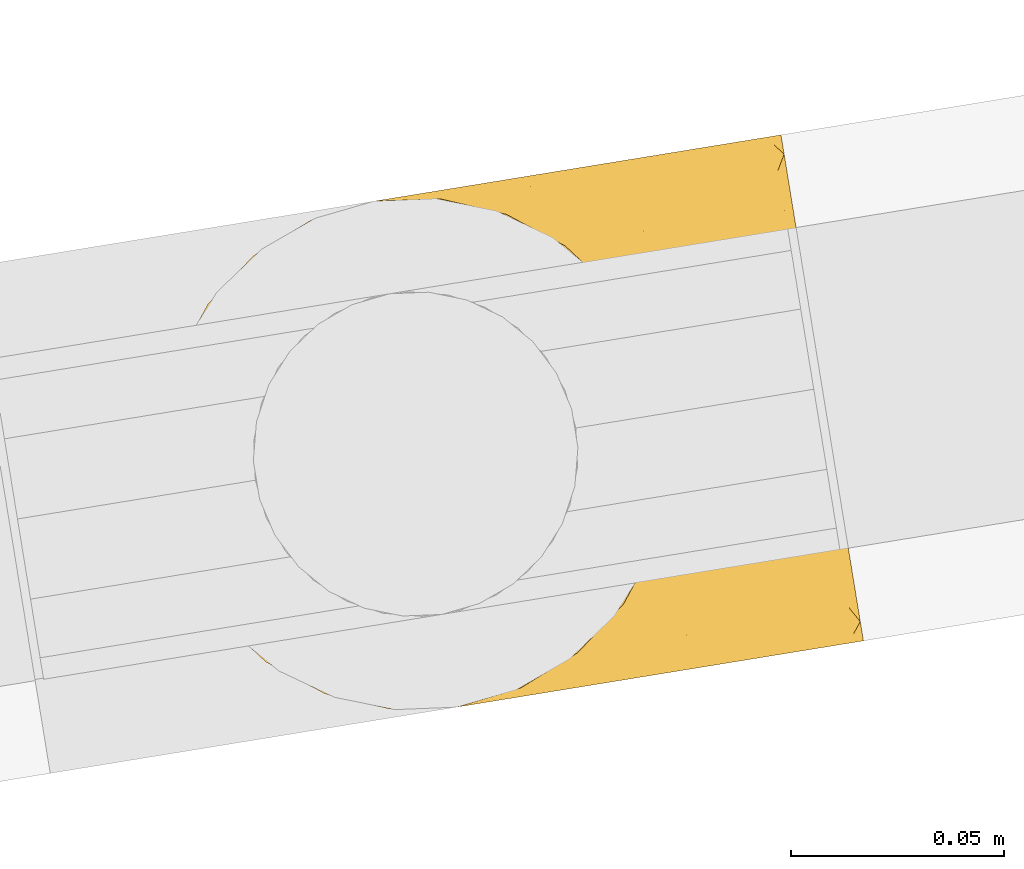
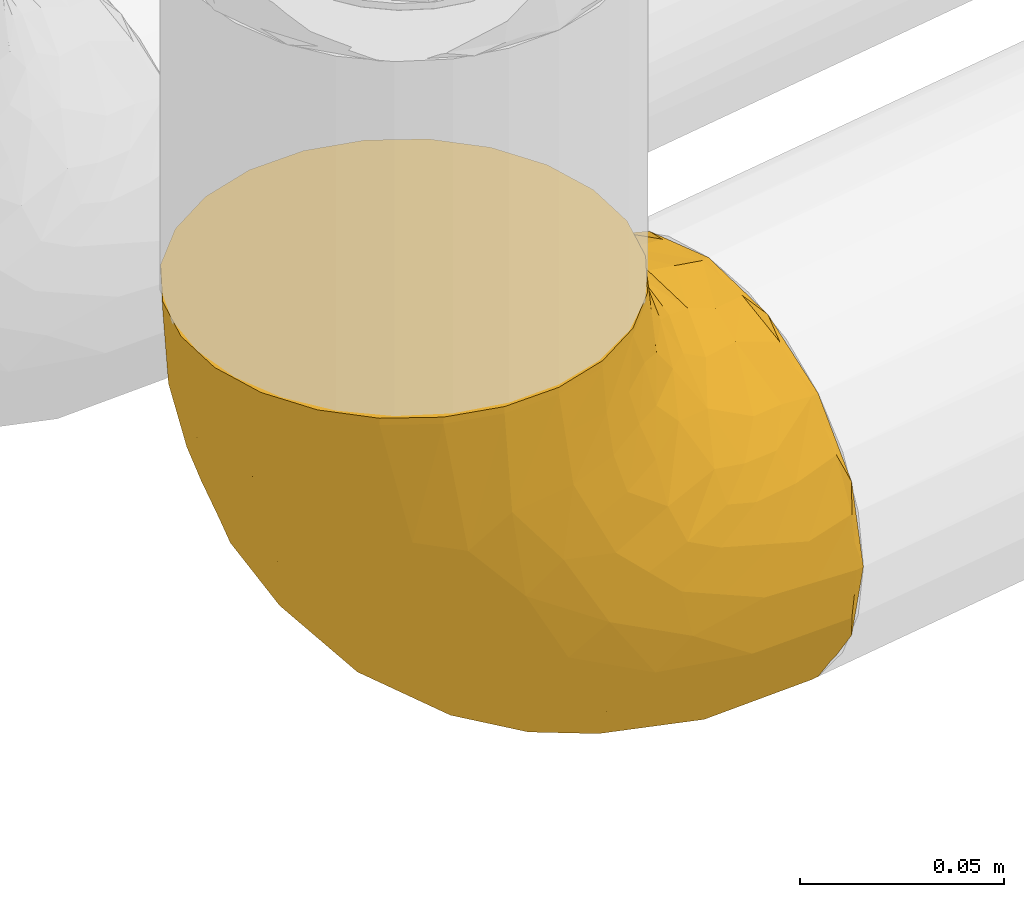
# One storey, part 14 of 56: 1 covering.
"""IFC2X3 building model written with IfcOpenShell, lengths in millimetres."""

from ifc_helpers import new_model, entity, si_unit, converted_unit, derived_unit, direction, frame, origin, origin_with_axes, place, context, subcontext, project, spatial, faceted_brep, material, type_object, element, save


model = new_model("IFC2X3")

# Units and contexts
model_context = context("Model", 3, precision=0.01, world=origin(), true_north=direction((6.12323399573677e-17, 1.0)))
plan_context = context("Plan", 3, precision=1e-05, world=origin_with_axes())
body_context = subcontext(model_context, "Body", "Model", "MODEL_VIEW")
ifc_project = project(units=[converted_unit("PLANEANGLEUNIT", "DEGREE", entity("IfcPositiveLengthMeasure", 0.0174532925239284), si_unit("PLANEANGLEUNIT", "RADIAN"), dimensions=[0, 0, 0, 0, 0, 0, 0]), si_unit("AREAUNIT", "SQUARE_METRE"), si_unit("LENGTHUNIT", "METRE", prefix="MILLI"), si_unit("MASSUNIT", "GRAM", prefix="KILO"), si_unit("POWERUNIT", "WATT"), si_unit("PRESSUREUNIT", "PASCAL", prefix="KILO"), si_unit("FORCEUNIT", "NEWTON", prefix="KILO"), si_unit("ELECTRICVOLTAGEUNIT", "VOLT"), si_unit("ELECTRICCURRENTUNIT", "AMPERE"), si_unit("THERMODYNAMICTEMPERATUREUNIT", "DEGREE_CELSIUS"), si_unit("TIMEUNIT", "SECOND"), si_unit("VOLUMEUNIT", "CUBIC_METRE"), derived_unit("LINEARVELOCITYUNIT", [(si_unit("LENGTHUNIT", "METRE"), 1), (si_unit("TIMEUNIT", "SECOND"), -1)]), derived_unit("VOLUMETRICFLOWRATEUNIT", [(si_unit("VOLUMEUNIT", "CUBIC_METRE"), 1), (si_unit("TIMEUNIT", "SECOND"), -1)]), derived_unit("THERMALTRANSMITTANCEUNIT", [(si_unit("POWERUNIT", "WATT"), 1), (si_unit("THERMODYNAMICTEMPERATUREUNIT", "KELVIN"), -1), (si_unit("AREAUNIT", "SQUARE_METRE"), -1)]), derived_unit("SOUNDPRESSUREUNIT", [(si_unit("PRESSUREUNIT", "PASCAL"), 1)])], contexts=[model_context, plan_context])

# Site, building, storey
site_placement = place(None, frame((-3.09682673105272e-06, 1.93776733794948e-05, 0.0), z_axis=(0.0, 0.0, 1.0), x_axis=(-0.160806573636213, 0.986985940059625, 0.0)))
site = spatial("IfcSite", under=ifc_project, at=site_placement, Name="Default", CompositionType="ELEMENT")
building_placement = place(site_placement, frame((0.0, 0.0, 0.0), z_axis=(0.0, 0.0, 1.0), x_axis=(1.0, -2.77555756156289e-17, 0.0)))
building = spatial("IfcBuilding", under=site, at=building_placement, Name="Bygning (endres i Project Information)", CompositionType="ELEMENT")
storey_placement = place(building_placement, frame((0.0, 0.0, 51360.0000000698), z_axis=(0.0, 0.0, 1.0), x_axis=(1.0, -2.77555756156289e-17, 0.0)))
storey = spatial("IfcBuildingStorey", under=building, at=storey_placement, Name="H01-Nivå D+0,36", CompositionType="ELEMENT", Elevation=51360.0000000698)

# Covering
ifc_material = material(Name="3700.001 Retur")
covering_type = type_object("IfcCoveringType", Name="Pipe Insulation:GLAVA avløpsisol. slange økende 19mm (15,5-25,0)", PredefinedType="INSULATION")
covering_placement = place(storey_placement, frame((1011626.7223707, -395767.315734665, 3238.35472776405), z_axis=(0.0, 0.0, 1.0), x_axis=(1.0, -2.77555756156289e-17, 0.0)))
element("IfcCovering", 1, at=covering_placement, inside=storey, type_object=covering_type, material=ifc_material, Name="Pipe Insulation:GLAVA avløpsisol. slange økende 19mm (15,5-25,0)", ObjectType="Pipe Insulation:GLAVA avløpsisol. slange økende 19mm (15,5-25,0)", PredefinedType="INSULATION", context=body_context, shape_type="Brep", body=[
    faceted_brep([(12.6749081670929, 0.0, 28.9243210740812), (19.1835100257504, 0.0, 19.1835100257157), (28.9243210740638, 0.0, 12.6749081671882), (38.6651321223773, 0.0, 6.16630630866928), (50.1552021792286, 0.0, 3.88078927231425), (61.6452722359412, 0.0, 1.59527223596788), (73.1353422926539, 0.0, 3.88078927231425), (84.6254123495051, 0.0, 6.16630630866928), (94.3662233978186, 0.0, 12.6749081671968), (104.107034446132, 0.0, 19.1835100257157), (110.61563630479, 0.0, 28.9243210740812), (117.124238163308, 0.0, 38.6651321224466), (119.409755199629, 0.0, 50.1552021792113), (121.695272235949, 0.0, 61.6452722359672), (119.409755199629, 0.0, 73.1353422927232), (117.124238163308, 0.0, 84.6254123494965), (110.61563630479, 0.0, 94.3662233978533), (104.107034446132, 0.0, 104.107034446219), (94.3662233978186, 0.0, 110.615636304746), (84.6254123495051, 0.0, 117.124238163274), (73.1353422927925, 0.0, 119.40975519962), (61.6452722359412, 0.0, 121.695272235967), (50.1552021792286, 0.0, 119.40975519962), (38.6651321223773, 0.0, 117.124238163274), (28.9243210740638, 0.0, 110.615636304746), (19.1835100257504, 0.0, 104.107034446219), (12.6749081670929, 0.0, 94.3662233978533), (6.16630630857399, 0.0, 84.6254123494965), (3.88078927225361, 0.0, 73.1353422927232), (1.59527223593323, 0.0, 61.6452722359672), (3.88078927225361, 0.0, 50.1552021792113), (6.16630630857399, 0.0, 38.6651321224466), (84.4288140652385, 151.504335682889, 158.145272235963), (77.1873558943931, 154.503845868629, 158.145272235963), (70.0046048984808, 155.449472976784, 158.145272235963), (61.6452722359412, 156.549999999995, 158.145272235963), (53.8742304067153, 155.526922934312, 158.145272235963), (46.1031885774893, 154.503845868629, 158.145272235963), (38.861730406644, 151.504335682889, 158.145272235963), (31.6202722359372, 148.504825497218, 158.145272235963), (25.4018911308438, 143.733293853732, 158.145272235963), (19.1835100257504, 138.961762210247, 158.145272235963), (14.4119783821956, 132.743381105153, 158.145272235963), (9.64044673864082, 126.524999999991, 158.145272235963), (6.64093655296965, 119.283541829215, 158.145272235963), (3.64142636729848, 112.042083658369, 158.145272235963), (2.69579925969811, 104.859332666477, 158.145272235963), (1.59527223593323, 96.4999999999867, 158.145272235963), (2.61834930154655, 88.7289581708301, 158.145272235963), (3.64142636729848, 80.9579163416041, 158.145272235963), (6.64093655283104, 73.7164581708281, 158.145272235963), (9.64044673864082, 66.4749999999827, 158.145272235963), (14.4119783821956, 60.25661889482, 158.145272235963), (19.1835100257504, 54.0382377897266, 158.145272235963), (25.4018911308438, 49.2667061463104, 158.145272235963), (31.6202722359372, 44.4951745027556, 158.145272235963), (38.861730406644, 41.4956643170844, 158.145272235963), (46.1031885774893, 38.496154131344, 158.145272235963), (53.2859395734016, 37.5505270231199, 158.145272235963), (61.6452722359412, 36.4499999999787, 158.145272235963), (69.4163140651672, 37.4730770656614, 158.145272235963), (77.1873558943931, 38.496154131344, 158.145272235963), (84.4288140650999, 41.4956643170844, 158.145272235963), (91.6702722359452, 44.4951745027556, 158.145272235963), (97.8886533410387, 49.2667061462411, 158.145272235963), (104.107034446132, 54.0382377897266, 158.145272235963), (108.878566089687, 60.2566188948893, 158.145272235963), (113.650097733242, 66.4749999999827, 158.145272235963), (116.649607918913, 73.7164581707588, 158.145272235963), (119.649118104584, 80.9579163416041, 158.145272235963), (120.594745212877, 88.1406673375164, 158.145272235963), (121.695272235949, 96.4999999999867, 158.145272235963), (120.672195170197, 104.271041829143, 158.145272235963), (119.649118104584, 112.042083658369, 158.145272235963), (116.649607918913, 119.283541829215, 158.145272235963), (113.650097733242, 126.524999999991, 158.145272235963), (108.878566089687, 132.743381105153, 158.145272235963), (104.107034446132, 138.961762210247, 158.145272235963), (97.8886533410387, 143.733293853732, 158.145272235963), (91.6702722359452, 148.504825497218, 158.145272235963), (46.1031885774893, 154.503845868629, 156.145272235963), (61.6452722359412, 156.549999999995, 156.145272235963), (53.2859395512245, 155.449472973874, 156.145272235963), (31.6202722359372, 148.504825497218, 156.145272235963), (38.861730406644, 151.504335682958, 156.145272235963), (25.4018911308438, 143.733293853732, 156.145272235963), (19.1835100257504, 138.961762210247, 156.145272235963), (9.64044673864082, 126.524999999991, 156.145272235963), (14.4119783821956, 132.743381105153, 156.145272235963), (3.64142636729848, 112.042083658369, 156.145272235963), (6.64093655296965, 119.283541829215, 156.145272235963), (2.61834930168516, 104.271041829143, 156.145272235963), (1.59527223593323, 96.4999999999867, 156.145272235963), (2.69579925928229, 88.1406673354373, 156.145272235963), (2.99407838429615, 85.8750124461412, 156.145272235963), (3.64142636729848, 80.9579163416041, 156.145272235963), (9.64044673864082, 66.4749999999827, 156.145272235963), (6.64093655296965, 73.7164581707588, 156.145272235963), (14.4119783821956, 60.25661889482, 156.145272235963), (19.1835100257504, 54.0382377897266, 156.145272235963), (31.6202722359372, 44.4951745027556, 156.145272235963), (25.4018911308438, 49.2667061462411, 156.145272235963), (46.1031885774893, 38.496154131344, 156.145272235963), (38.861730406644, 41.4956643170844, 156.145272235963), (53.8742304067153, 37.4730770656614, 156.145272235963), (61.6452722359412, 36.4499999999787, 156.145272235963), (77.1873558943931, 38.496154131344, 156.145272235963), (70.0046048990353, 37.5505270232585, 156.145272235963), (91.6702722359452, 44.4951745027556, 156.145272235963), (84.4288140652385, 41.4956643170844, 156.145272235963), (97.8886533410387, 49.2667061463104, 156.145272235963), (104.107034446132, 54.0382377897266, 156.145272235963), (113.650097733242, 66.4749999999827, 156.145272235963), (108.878566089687, 60.25661889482, 156.145272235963), (119.649118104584, 80.9579163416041, 156.145272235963), (116.649607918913, 73.7164581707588, 156.145272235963), (120.296466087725, 85.8750124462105, 156.145272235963), (120.672195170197, 88.7289581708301, 156.145272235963), (121.695272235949, 96.4999999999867, 156.145272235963), (119.649118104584, 112.042083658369, 156.145272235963), (120.594745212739, 104.859332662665, 156.145272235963), (113.650097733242, 126.524999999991, 156.145272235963), (116.649607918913, 119.283541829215, 156.145272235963), (108.878566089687, 132.743381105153, 156.145272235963), (104.107034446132, 138.961762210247, 156.145272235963), (91.6702722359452, 148.504825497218, 156.145272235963), (97.8886533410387, 143.733293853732, 156.145272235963), (77.1873558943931, 154.503845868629, 156.145272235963), (84.4288140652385, 151.504335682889, 156.145272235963), (69.4163140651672, 155.526922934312, 156.145272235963), (61.6452722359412, 42.0004834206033, 6.86143578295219), (50.874360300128, 28.4061816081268, 4.85633208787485), (48.3123405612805, 66.8176923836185, 17.4970961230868), (61.6452722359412, 151.283836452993, 116.144788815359), (50.8743603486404, 153.28894006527, 129.7390901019), (40.1140278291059, 138.43438143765, 92.4811097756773), (29.0681267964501, 134.144438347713, 96.5885905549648), (40.5629880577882, 148.119588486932, 119.160590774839), (26.8652987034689, 142.732214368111, 128.340793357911), (6.2538791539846, 103.184564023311, 96.03935353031), (9.32891480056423, 118.904536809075, 114.864782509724), (15.7793795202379, 116.677739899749, 88.2689784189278), (30.9943885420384, 100.860670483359, 48.5209071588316), (43.033171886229, 122.592591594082, 64.2876891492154), (46.1252897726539, 94.5183470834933, 34.9034338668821), (2.60271791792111, 94.1873799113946, 104.940499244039), (3.35496170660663, 79.0255659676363, 79.1197072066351), (1.59527223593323, 78.4521059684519, 100.599565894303), (16.4717971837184, 130.738697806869, 118.733085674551), (25.2721583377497, 116.858258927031, 72.172721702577), (61.6452722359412, 111.283353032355, 46.8619192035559), (61.6452722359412, 79.2749999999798, 22.301046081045), (61.6452722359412, 135.844226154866, 78.8702722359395), (4.10209138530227, 109.248734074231, 125.036729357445), (6.25387908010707, 62.1059203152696, 54.9607093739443), (8.17011244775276, 88.1401035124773, 70.0051707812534), (1.59527223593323, 85.1634733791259, 113.771366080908), (1.59527223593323, 91.8748407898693, 126.943166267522), (51.0085878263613, 145.293239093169, 100.826681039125), (16.4717967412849, 39.4121875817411, 27.4065752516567), (15.7793792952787, 69.8762968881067, 41.4675344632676), (29.0681253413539, 61.5566846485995, 24.0008362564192), (40.5629880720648, 38.9846813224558, 10.02568370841), (46.1031885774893, 2.0, 3.64142636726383), (38.861730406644, 2.0, 6.6409365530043), (31.6202722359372, 2.0, 9.64044673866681), (26.8652981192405, 29.8044794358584, 15.4130584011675), (25.4018911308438, 2.0, 14.4119783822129), (19.1835100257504, 2.0, 19.1835100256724), (61.6452722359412, 2.0, 1.59527223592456), (53.8742304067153, 2.0, 2.61834930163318), (9.32891462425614, 43.2804911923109, 39.2407362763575), (9.64044673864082, 2.0, 31.6202722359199), (6.64093655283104, 2.0, 38.8617304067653), (3.64142636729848, 2.0, 46.1031885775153), (14.4119783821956, 2.0, 25.4018911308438), (1.59527223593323, 57.5457063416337, 79.6931662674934), (1.59527223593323, 67.9989061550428, 90.1463660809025), (2.6027179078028, 53.2047737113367, 63.9578927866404), (4.1020913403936, 33.1085435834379, 48.8965385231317), (1.59527223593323, 31.202105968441, 66.2704314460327), (1.59527223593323, 2.0, 61.6452722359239), (1.59527223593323, 14.7966155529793, 63.6720570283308), (1.59527223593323, 44.3739061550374, 72.9817988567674), (38.4156117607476, 76.0964222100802, 25.8677928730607), (2.61834930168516, 2.0, 53.8742304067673), (17.5329938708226, 97.6322626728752, 60.51301351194), (1.59527223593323, 94.4732153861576, 143.348657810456), (30.453594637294, 26.3881555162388, 120.504197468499), (45.3850170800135, 19.8213005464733, 124.070288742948), (39.6602346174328, 30.495068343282, 130.078513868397), (3.64833911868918, 79.6755573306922, 142.117064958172), (3.2176443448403, 77.7956794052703, 128.628832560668), (35.7453885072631, 41.3921957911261, 147.533586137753), (19.0905134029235, 51.2599985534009, 139.082463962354), (32.0600621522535, 39.3569033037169, 136.422330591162), (7.1678522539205, 66.4255659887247, 130.785364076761), (6.53844542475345, 61.7611370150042, 118.478414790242), (11.6121890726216, 57.397905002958, 129.916934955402), (2.87864533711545, 73.6921423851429, 116.031663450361), (4.10903521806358, 59.8559552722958, 104.87023375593), (19.6892528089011, 11.105458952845, 105.417545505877), (18.442420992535, 21.0489355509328, 106.909255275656), (12.6384382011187, 18.495195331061, 98.6689268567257), (2.61834930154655, 2.0, 69.4163140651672), (2.99407837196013, 2.0, 72.2702596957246), (3.64142636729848, 2.0, 77.1873558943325), (7.16352338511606, 69.7763679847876, 141.95247640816), (12.7756283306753, 60.2362581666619, 143.451789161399), (46.8445885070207, 35.2954551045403, 141.678469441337), (28.5046498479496, 35.1684660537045, 126.594306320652), (18.6122281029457, 35.474407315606, 115.54914553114), (34.8214494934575, 13.4287309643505, 117.00575641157), (31.6202722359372, 2.0, 113.650097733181), (38.861730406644, 2.0, 116.64960791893), (46.1031885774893, 2.0, 119.649118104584), (2.81174882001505, 54.7534216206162, 92.7490897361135), (6.64320962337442, 29.8078963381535, 91.4693001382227), (2.9890941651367, 44.0771599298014, 86.187271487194), (3.24649436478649, 27.0781928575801, 79.6356612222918), (11.1155242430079, 29.7714545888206, 100.652594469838), (2.96958213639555, 16.2064688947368, 75.6631370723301), (9.64044673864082, 2.0, 91.6702722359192), (8.05093078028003, 16.1340663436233, 90.2295581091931), (19.1835100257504, 2.0, 104.107034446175), (13.3023469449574, 48.9737177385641, 120.648409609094), (21.705384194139, 43.9447950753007, 129.564302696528), (61.6452722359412, 10.6124999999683, 124.002984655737), (44.9928957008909, 11.3511933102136, 120.547927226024), (9.64933126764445, 40.6154890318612, 104.532423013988), (6.18578600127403, 39.3574666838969, 95.2125765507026), (61.6452722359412, 2.0, 121.695272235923), (61.6452722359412, 25.5297875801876, 132.61548465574), (61.6452722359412, 19.2249999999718, 126.310697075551), (50.8046760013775, 29.8232292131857, 134.199400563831), (61.6452722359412, 31.8345751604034, 138.920272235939), (14.4119783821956, 2.0, 97.8886533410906), (25.4018911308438, 2.0, 108.878566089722), (6.64093655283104, 2.0, 84.4288140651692), (53.8742304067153, 2.0, 120.672195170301), (104.200031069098, 51.2599985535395, 139.082463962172), (87.5451559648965, 41.3921957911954, 147.533586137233), (76.4459559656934, 35.2954551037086, 141.678469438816), (119.642205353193, 79.6755573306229, 142.117064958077), (121.695272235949, 94.4732153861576, 143.348657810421), (121.695272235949, 57.5457063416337, 79.693166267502), (120.478798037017, 54.7534299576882, 92.7490814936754), (120.301449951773, 44.077157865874, 86.187272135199), (77.9055273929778, 19.8213005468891, 124.070288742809), (92.8369498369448, 26.3881555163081, 120.50419746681), (83.6303098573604, 30.495068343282, 130.078513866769), (110.773465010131, 60.6680970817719, 143.724416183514), (116.468392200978, 70.3948101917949, 141.257647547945), (116.122692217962, 66.4255659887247, 130.785364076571), (120.411899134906, 73.6921423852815, 116.031663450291), (120.252303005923, 78.4327232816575, 128.101851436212), (121.695272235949, 91.8748407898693, 126.943166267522), (101.585160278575, 43.9447950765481, 129.564302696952), (104.678309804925, 35.4744037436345, 115.549151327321), (109.988197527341, 48.9737177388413, 120.648409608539), (94.7858946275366, 35.1684660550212, 126.594306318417), (91.230482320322, 39.3569033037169, 136.422330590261), (73.0698771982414, 26.1401484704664, 130.052599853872), (121.695272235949, 67.9989061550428, 90.1463660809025), (119.181510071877, 59.8559490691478, 104.870222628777), (78.2976487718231, 11.3511933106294, 120.547927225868), (121.695272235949, 14.7966155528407, 63.6720570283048), (119.649118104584, 2.0, 77.1873558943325), (120.2964661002, 2.0, 72.2702596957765), (120.672195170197, 2.0, 69.4163140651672), (121.695272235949, 2.0, 61.6452722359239), (113.641203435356, 40.6154761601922, 104.532434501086), (110.65210593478, 18.4951987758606, 98.6689283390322), (104.107034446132, 2.0, 104.107034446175), (115.239608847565, 16.134063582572, 90.2295673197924), (108.878566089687, 2.0, 97.8886533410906), (113.650097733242, 2.0, 91.6702722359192), (120.044048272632, 27.0781868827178, 79.6356673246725), (116.647331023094, 29.8078959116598, 91.4693094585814), (104.848120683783, 21.04892582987, 106.909254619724), (112.175015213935, 29.7714523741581, 100.652602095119), (116.752097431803, 61.76113027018, 118.478411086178), (121.695272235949, 31.202105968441, 66.2704314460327), (120.320962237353, 16.206468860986, 75.6631375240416), (121.695272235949, 44.3739061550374, 72.9817988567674), (103.601296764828, 11.1054582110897, 105.417540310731), (88.4690949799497, 13.428730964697, 117.005756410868), (77.1873558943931, 2.0, 119.649118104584), (84.4288140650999, 2.0, 116.649607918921), (91.6702722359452, 2.0, 113.650097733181), (111.678355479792, 57.3979048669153, 129.916934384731), (121.695272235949, 78.4521059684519, 100.599565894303), (69.4163140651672, 2.0, 120.672195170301), (117.104756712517, 39.3574747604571, 95.2125864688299), (116.649607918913, 2.0, 84.4288140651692), (97.8886533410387, 2.0, 108.878566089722), (121.695272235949, 85.1634733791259, 113.771366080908), (120.687826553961, 94.1873799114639, 104.940499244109), (94.2224191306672, 61.5566846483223, 24.0008362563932), (98.0183867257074, 85.9725557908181, 41.2870177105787), (107.511165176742, 69.8762968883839, 41.4675344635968), (82.7275563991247, 38.9846813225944, 10.0256837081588), (91.6702722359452, 2.0, 9.64044673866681), (84.4288140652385, 2.0, 6.6409365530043), (77.1873558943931, 2.0, 3.64142636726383), (92.2961553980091, 109.624370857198, 57.2846075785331), (80.2573722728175, 93.8575895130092, 35.5526854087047), (77.1652542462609, 123.241842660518, 63.6269305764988), (120.68782656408, 53.2047737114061, 63.9578927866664), (119.935582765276, 79.0255659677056, 79.1197072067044), (119.18845308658, 109.248734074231, 125.036729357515), (72.4161841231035, 153.28894006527, 129.739090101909), (82.7275564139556, 148.119588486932, 119.160590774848), (96.4252457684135, 142.732214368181, 128.340793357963), (106.818747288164, 130.738697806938, 118.733085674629), (94.2224176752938, 134.144438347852, 96.5885905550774), (74.9782050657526, 140.648176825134, 91.3275819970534), (113.961629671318, 118.904536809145, 114.864782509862), (107.511164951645, 116.677739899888, 88.2689784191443), (113.650097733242, 2.0, 31.6202722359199), (106.818747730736, 39.4121875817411, 27.4065752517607), (113.961629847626, 43.2804911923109, 39.2407362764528), (119.188453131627, 33.1085435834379, 48.896538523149), (117.036665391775, 62.1059203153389, 54.9607093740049), (120.672195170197, 2.0, 53.8742304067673), (119.649118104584, 2.0, 46.1031885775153), (117.036665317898, 103.18456402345, 96.0393535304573), (115.12043202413, 88.1401035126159, 70.0051707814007), (72.4161841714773, 28.406181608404, 4.85633208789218), (104.107034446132, 2.0, 19.1835100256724), (96.425246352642, 29.8044794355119, 15.4130584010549), (72.2819553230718, 57.318589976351, 12.8520324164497), (97.8886533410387, 2.0, 14.4119783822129), (108.878566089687, 2.0, 25.4018911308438), (83.1765175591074, 65.6641633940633, 19.7108916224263), (84.8749309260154, 132.277483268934, 82.0488553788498), (105.757550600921, 97.6322626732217, 60.5130135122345), (116.649607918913, 2.0, 38.8617304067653), (69.4163140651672, 2.0, 2.61834930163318)], [[[0, 1, 2, 3, 4, 5, 6, 7, 8, 9, 10, 11, 12, 13, 14, 15, 16, 17, 18, 19, 20, 21, 22, 23, 24, 25, 26, 27, 28, 29, 30, 31]], [[32, 33, 34, 35, 36, 37, 38, 39, 40, 41, 42, 43, 44, 45, 46, 47, 48, 49, 50, 51, 52, 53, 54, 55, 56, 57, 58, 59, 60, 61, 62, 63, 64, 65, 66, 67, 68, 69, 70, 71, 72, 73, 74, 75, 76, 77, 78, 79]], [[80, 37, 36, 35, 81, 82]], [[83, 39, 38, 37, 80, 84]], [[40, 39, 83, 85, 86, 41]], [[87, 43, 42, 41, 86, 88]], [[89, 45, 44, 43, 87, 90]], [[46, 45, 89, 91, 92, 47]], [[49, 48, 47, 92, 93, 94, 95]], [[96, 51, 50, 49, 95, 97]], [[52, 51, 96, 98, 99, 53]], [[100, 55, 54, 53, 99, 101]], [[102, 57, 56, 55, 100, 103]], [[58, 57, 102, 104, 105, 59]], [[106, 61, 60, 59, 105, 107]], [[108, 63, 62, 61, 106, 109]], [[64, 63, 108, 110, 111, 65]], [[112, 67, 66, 65, 111, 113]], [[114, 69, 68, 67, 112, 115]], [[70, 69, 114, 116, 117, 118, 71]], [[119, 73, 72, 71, 118, 120]], [[121, 75, 74, 73, 119, 122]], [[76, 75, 121, 123, 124, 77]], [[125, 79, 78, 77, 124, 126]], [[127, 33, 32, 79, 125, 128]], [[34, 33, 127, 129, 81, 35]], [[130, 131, 132]], [[81, 133, 134]], [[135, 136, 137]], [[137, 136, 138]], [[137, 83, 84, 80]], [[139, 140, 141]], [[142, 143, 144]], [[145, 146, 147]], [[148, 86, 138]], [[138, 86, 85, 83]], [[143, 142, 149]], [[150, 151, 144]], [[143, 152, 150]], [[153, 92, 91, 89]], [[154, 146, 155]], [[87, 148, 140]], [[145, 147, 156, 157]], [[80, 134, 137]], [[158, 135, 137]], [[155, 146, 139]], [[148, 87, 88, 86]], [[159, 160, 161]], [[162, 163, 164, 165]], [[166, 165, 167, 168]], [[166, 162, 165]], [[131, 169, 170, 163]], [[159, 171, 160]], [[171, 172, 173, 174]], [[153, 139, 145]], [[159, 168, 175, 172]], [[144, 143, 150]], [[146, 176, 177, 147]], [[178, 179, 180]], [[179, 181, 182, 180]], [[178, 180, 183, 176]], [[178, 146, 154]], [[136, 149, 141]], [[131, 163, 162]], [[166, 159, 161]], [[184, 144, 132]], [[153, 140, 139]], [[179, 171, 174]], [[132, 144, 151]], [[134, 158, 137]], [[161, 160, 142]], [[146, 178, 176]], [[179, 178, 154]], [[179, 154, 171]], [[179, 174, 185, 181]], [[154, 155, 160]], [[172, 171, 159]], [[154, 160, 171]], [[160, 186, 142]], [[153, 157, 187, 92]], [[146, 145, 139]], [[153, 145, 157]], [[140, 89, 90, 87]], [[140, 153, 89]], [[141, 140, 148]], [[136, 141, 148]], [[141, 186, 155]], [[142, 144, 184]], [[186, 141, 149]], [[137, 138, 83]], [[148, 138, 136]], [[159, 166, 168]], [[162, 166, 161]], [[141, 155, 139]], [[160, 155, 186]], [[130, 132, 151]], [[184, 162, 161]], [[162, 184, 132]], [[142, 184, 161]], [[134, 80, 82, 81]], [[158, 134, 133]], [[133, 152, 158]], [[143, 158, 152]], [[158, 143, 135]], [[143, 136, 135]], [[132, 131, 162]], [[169, 131, 130]], [[143, 149, 136]], [[186, 149, 142]], [[188, 189, 190]], [[187, 157, 191]], [[157, 156, 192]], [[95, 187, 191]], [[193, 194, 195]], [[196, 197, 198]], [[199, 200, 197]], [[201, 202, 203]], [[182, 181, 204, 205, 206]], [[207, 208, 96]], [[209, 105, 104, 102]], [[188, 190, 210]], [[188, 210, 211]], [[187, 95, 94, 93, 92]], [[193, 102, 103, 100]], [[212, 213, 214, 215]], [[200, 177, 216]], [[202, 201, 212]], [[217, 218, 219]], [[183, 219, 218]], [[217, 203, 220]], [[221, 222, 223]], [[191, 96, 97, 95]], [[195, 210, 190]], [[224, 201, 203]], [[225, 211, 226]], [[227, 189, 228]], [[202, 188, 211]], [[195, 190, 209]], [[221, 182, 206]], [[223, 203, 217]], [[189, 188, 212]], [[200, 229, 225]], [[194, 100, 101, 99]], [[216, 218, 230]], [[208, 99, 98, 96]], [[199, 197, 196]], [[200, 147, 177]], [[228, 231, 227]], [[202, 212, 188]], [[228, 212, 215]], [[232, 189, 233]], [[209, 234, 235]], [[234, 209, 190]], [[105, 209, 235]], [[193, 209, 102]], [[232, 234, 189]], [[226, 210, 195]], [[211, 225, 229]], [[211, 210, 226]], [[211, 229, 220]], [[195, 194, 226]], [[198, 226, 194]], [[218, 216, 176]], [[216, 177, 176]], [[229, 200, 216]], [[180, 219, 183]], [[217, 220, 230]], [[218, 176, 183]], [[221, 219, 180]], [[223, 217, 219]], [[221, 223, 219]], [[223, 222, 236, 224]], [[224, 203, 223]], [[220, 203, 202]], [[211, 220, 202]], [[217, 230, 218]], [[220, 229, 230]], [[216, 230, 229]], [[201, 224, 237, 213]], [[212, 201, 213]], [[182, 221, 180]], [[221, 206, 238, 222]], [[189, 227, 233]], [[199, 196, 192]], [[191, 192, 207]], [[200, 199, 147]], [[147, 199, 156]], [[196, 207, 192]], [[200, 225, 197]], [[225, 226, 198]], [[157, 192, 191]], [[156, 199, 192]], [[207, 196, 208]], [[191, 207, 96]], [[198, 208, 196]], [[194, 99, 208]], [[225, 198, 197]], [[208, 198, 194]], [[194, 193, 100]], [[209, 193, 195]], [[189, 234, 190]], [[235, 234, 232]], [[228, 215, 239, 231]], [[189, 212, 228]], [[240, 111, 110, 108]], [[241, 108, 109, 106]], [[105, 235, 242]], [[243, 244, 114]], [[245, 246, 247]], [[248, 249, 250]], [[248, 233, 227]], [[251, 252, 112]], [[116, 114, 244, 118, 117]], [[253, 254, 255]], [[244, 243, 256]], [[253, 252, 251]], [[257, 258, 259]], [[243, 114, 115, 112]], [[258, 260, 249]], [[261, 250, 260]], [[262, 242, 235]], [[246, 263, 264]], [[231, 265, 227]], [[240, 108, 241]], [[266, 267, 268, 269, 270]], [[264, 259, 271]], [[272, 273, 274]], [[260, 257, 261]], [[274, 273, 275, 276]], [[277, 247, 278]], [[279, 280, 258]], [[254, 281, 264]], [[266, 282, 283]], [[283, 282, 277]], [[282, 284, 277]], [[272, 285, 273]], [[286, 279, 249]], [[286, 287, 288, 289]], [[259, 281, 290]], [[272, 280, 279]], [[263, 246, 245]], [[264, 291, 254]], [[286, 289, 285]], [[248, 286, 249]], [[260, 250, 249]], [[265, 231, 292, 287]], [[242, 250, 261]], [[262, 248, 250]], [[241, 242, 261]], [[242, 106, 107, 105]], [[262, 235, 232, 233]], [[248, 262, 233]], [[260, 258, 257]], [[279, 258, 249]], [[259, 258, 271]], [[290, 257, 259]], [[240, 261, 257]], [[264, 271, 246]], [[263, 291, 264]], [[280, 278, 293]], [[293, 246, 271]], [[278, 274, 277]], [[277, 284, 247]], [[284, 245, 247]], [[283, 276, 294, 267]], [[274, 278, 272]], [[283, 274, 276]], [[280, 272, 278]], [[272, 279, 285]], [[293, 278, 247]], [[258, 280, 271]], [[246, 293, 247]], [[271, 280, 293]], [[286, 285, 279]], [[285, 289, 295, 273]], [[283, 277, 274]], [[266, 283, 267]], [[265, 287, 286]], [[253, 255, 252]], [[254, 291, 296]], [[255, 254, 296]], [[243, 255, 256]], [[254, 253, 281]], [[256, 255, 296]], [[255, 243, 252]], [[290, 281, 253]], [[259, 264, 281]], [[243, 112, 252]], [[251, 112, 113, 111]], [[111, 240, 251]], [[290, 251, 240]], [[251, 290, 253]], [[290, 240, 257]], [[242, 241, 106]], [[240, 241, 261]], [[242, 262, 250]], [[286, 248, 265]], [[227, 265, 248]], [[297, 256, 296, 291]], [[298, 299, 300]], [[301, 302, 303, 304]], [[305, 306, 307]], [[308, 309, 245]], [[297, 310, 256]], [[311, 127, 312]], [[313, 314, 315]], [[311, 81, 129, 127]], [[316, 307, 152]], [[314, 317, 318]], [[313, 312, 125]], [[312, 127, 128, 125]], [[313, 125, 126, 124]], [[319, 320, 321]], [[314, 124, 123, 121]], [[317, 121, 122, 119]], [[306, 151, 150]], [[309, 291, 263, 245]], [[322, 321, 323]], [[314, 318, 315]], [[322, 323, 308]], [[322, 270, 324, 325]], [[326, 309, 327]], [[119, 310, 317]], [[304, 328, 301]], [[306, 305, 299]], [[320, 329, 330]], [[328, 331, 301]], [[330, 329, 332, 302]], [[320, 319, 333, 329]], [[331, 334, 301]], [[298, 301, 334]], [[307, 306, 150]], [[169, 130, 328]], [[297, 309, 326]], [[327, 309, 323]], [[330, 301, 298]], [[300, 323, 321]], [[310, 118, 244, 256]], [[150, 152, 307]], [[308, 245, 284, 282]], [[335, 307, 316]], [[133, 311, 316]], [[315, 318, 305]], [[309, 297, 291]], [[310, 297, 326]], [[310, 326, 317]], [[310, 119, 120, 118]], [[326, 327, 318]], [[121, 317, 314]], [[326, 318, 317]], [[318, 336, 305]], [[322, 282, 266, 270]], [[309, 308, 323]], [[322, 308, 282]], [[321, 325, 337, 319]], [[321, 322, 325]], [[300, 321, 320]], [[298, 300, 320]], [[300, 336, 327]], [[305, 307, 335]], [[336, 300, 299]], [[301, 330, 302]], [[320, 330, 298]], [[314, 313, 124]], [[312, 313, 315]], [[300, 327, 323]], [[318, 327, 336]], [[133, 316, 152]], [[335, 312, 315]], [[312, 335, 316]], [[305, 335, 315]], [[328, 304, 338, 169]], [[331, 328, 130]], [[130, 151, 331]], [[306, 331, 151]], [[331, 306, 334]], [[306, 298, 334]], [[316, 311, 312]], [[81, 311, 133]], [[306, 299, 298]], [[336, 299, 305]], [[170, 169, 5]], [[185, 174, 30]], [[185, 29, 181]], [[3, 2, 165]], [[3, 165, 164, 163]], [[3, 163, 4]], [[1, 167, 2]], [[5, 4, 170]], [[167, 1, 168]], [[4, 163, 170]], [[29, 185, 30]], [[31, 174, 173, 172]], [[175, 0, 172]], [[175, 1, 0]], [[31, 172, 0]], [[1, 175, 168]], [[167, 165, 2]], [[31, 30, 174]], [[204, 181, 29]], [[239, 215, 22]], [[239, 21, 231]], [[27, 26, 222]], [[27, 222, 238, 206]], [[27, 206, 28]], [[25, 236, 26]], [[29, 28, 204]], [[236, 25, 224]], [[28, 206, 205, 204]], [[21, 239, 22]], [[23, 215, 214, 213]], [[237, 24, 213]], [[237, 25, 24]], [[23, 213, 24]], [[25, 237, 224]], [[236, 222, 26]], [[23, 22, 215]], [[292, 231, 21]], [[14, 269, 268, 267]], [[269, 13, 270]], [[19, 18, 289]], [[19, 289, 288, 287]], [[19, 287, 20]], [[17, 295, 18]], [[21, 20, 292]], [[295, 17, 273]], [[20, 287, 292]], [[13, 269, 14]], [[15, 267, 294, 276]], [[275, 16, 276]], [[275, 17, 16]], [[15, 276, 16]], [[17, 275, 273]], [[295, 289, 18]], [[15, 14, 267]], [[324, 270, 13]], [[338, 304, 6]], [[338, 5, 169]], [[11, 10, 319]], [[11, 319, 337, 325]], [[11, 325, 12]], [[9, 333, 10]], [[13, 12, 324]], [[333, 9, 329]], [[12, 325, 324]], [[5, 338, 6]], [[7, 304, 303, 302]], [[332, 8, 302]], [[332, 9, 8]], [[7, 302, 8]], [[9, 332, 329]], [[333, 319, 10]], [[7, 6, 304]]]),
])

save(model, "model.ifc")
